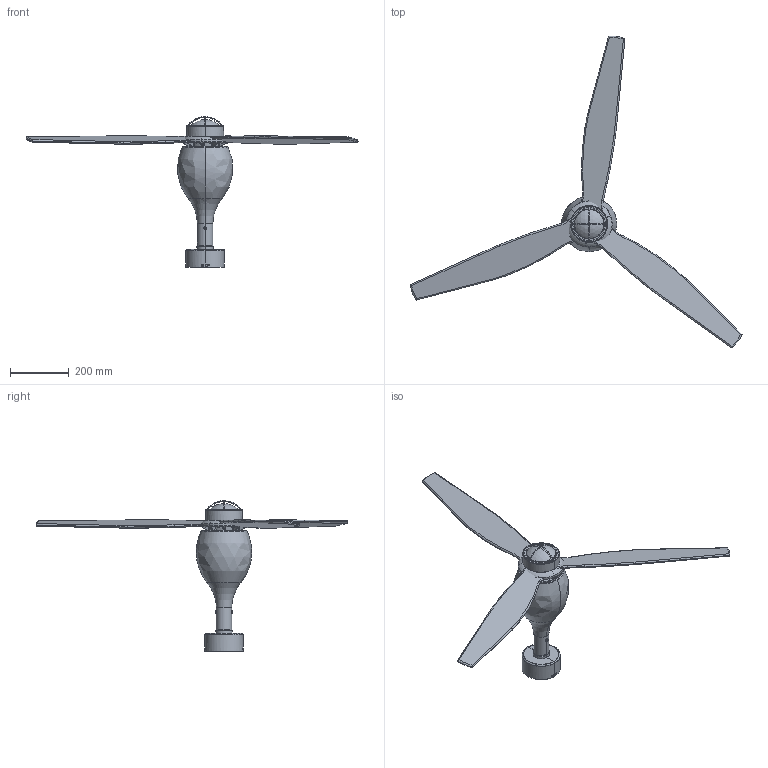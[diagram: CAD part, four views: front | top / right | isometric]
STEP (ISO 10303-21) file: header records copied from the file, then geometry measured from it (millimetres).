
FILE_DESCRIPTION(/* description */ (''),/* implementation_level */ '2;1');
FILE_NAME(/* name */ 'C:\Users\FrancoSartori\Documents\FARO\01_En Proceso\00_ETERFAN LED\03_Publicación\32029-9.stp',/* time_stamp */ '2021-04-22T13:44:33+02:00',/* author */ ('FrancoSartori'),/* organization */ (''),/* preprocessor_version */ 'ST-DEVELOPER v18.1',/* originating_system */ 'AutoCAD Mechanical',/* authorisation */ '');
FILE_SCHEMA (('AUTOMOTIVE_DESIGN { 1 0 10303 214 3 1 1 }'));
Length unit declared in the file: millimetre
Products named in the file (3): Product; miniETERFAN - FAN-227056-Export; 33390_33391LigKIT - LT-227059-Export
Assembly tree (2 placements, depth 2):
  Product
    miniETERFAN - FAN-227056-Export
    33390_33391LigKIT - LT-227059-Export
Bounding box: 1127.17 x 1058.55 x 511.36 mm (x, y, z)
Volume: 3276527.3 mm3; surface area: 966180.3 mm2
Topology: 25 solids, 26 shells, 759 faces, 1909 edges, 1198 vertices
Faces by surface type: cylinder 235, plane 233, torus 175, bspline 74, cone 34, sphere 8
Entity records: 33622 total; most frequent: CARTESIAN_POINT 16853, ORIENTED_EDGE 3730, DIRECTION 2935, EDGE_CURVE 1909, VERTEX_POINT 1198, AXIS2_PLACEMENT_3D 1162, EDGE_LOOP 827, B_SPLINE_CURVE_WITH_KNOTS 824
